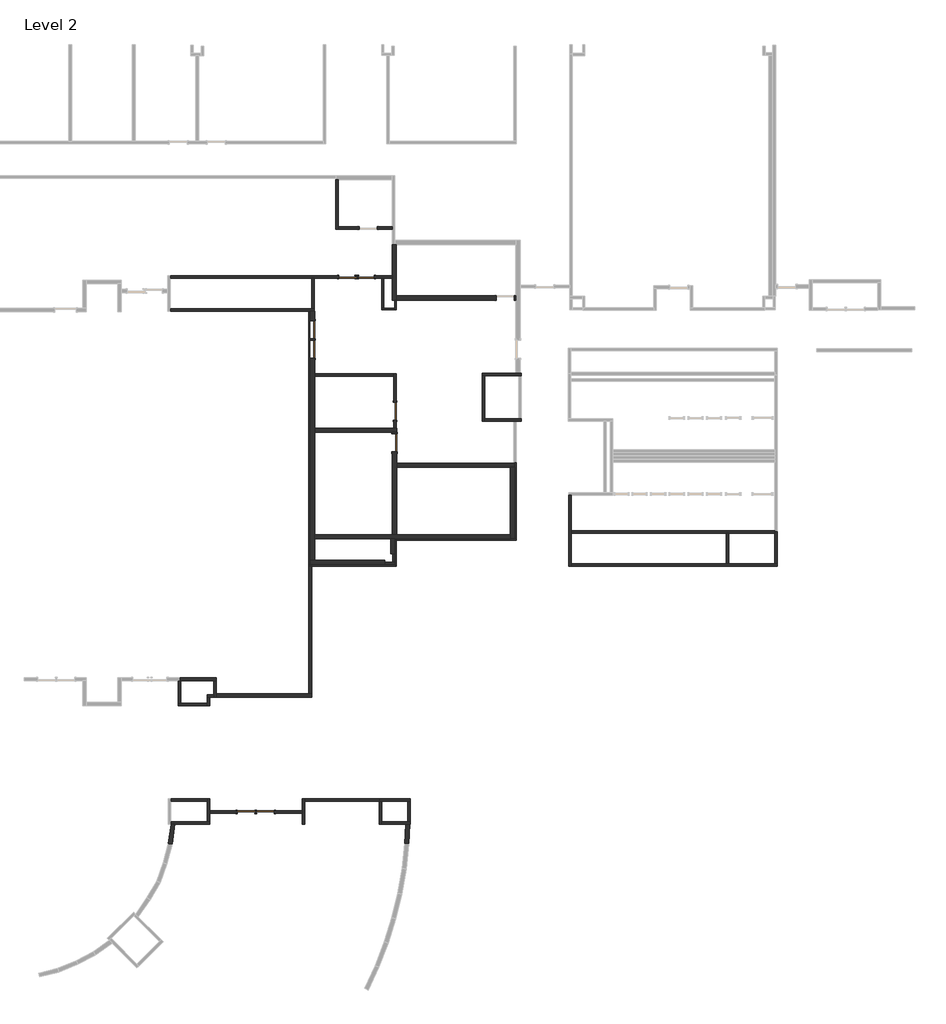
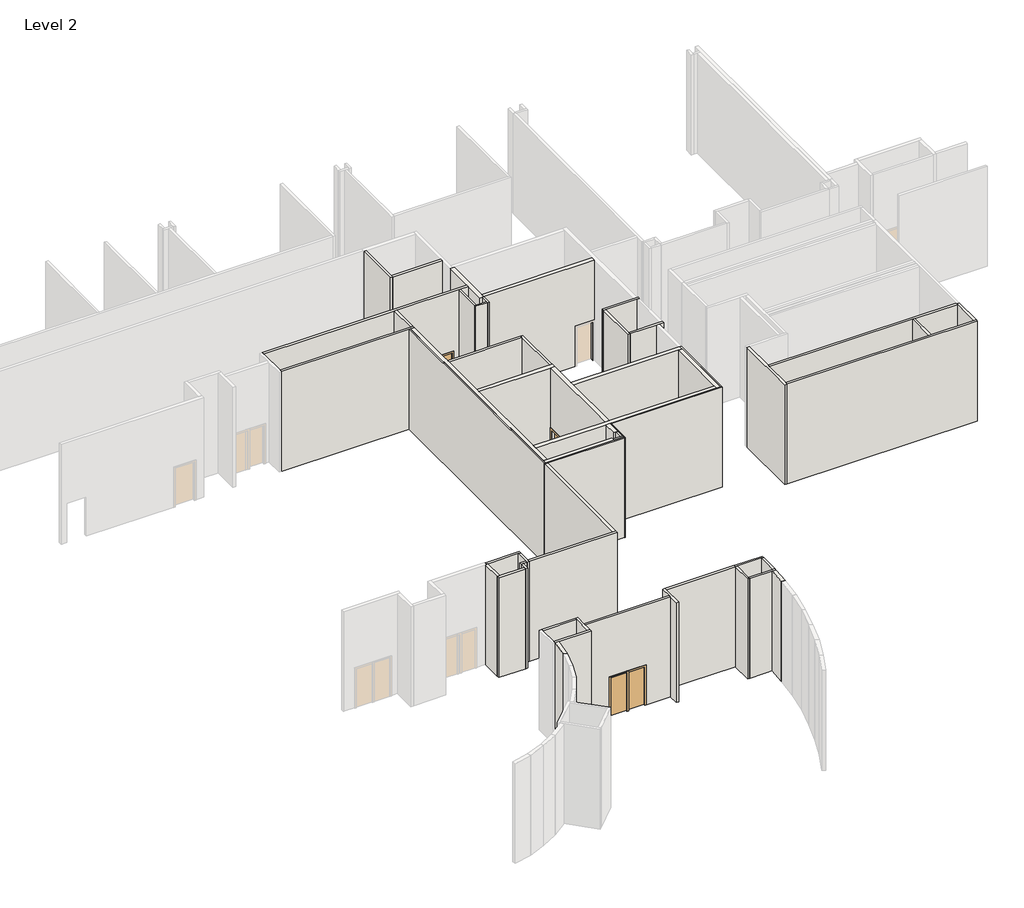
# One storey, part 6 of 9: 55 walls, 8 doors.
"""IFC4 building model written with IfcOpenShell, lengths in millimetres."""

import ifcopenshell
import ifcopenshell.guid

model = None  # the IFC model being written
_history = None  # IfcOwnerHistory: only IFC2X3 demands one
_inside = {}  # id of a spatial element -> (the spatial element, [elements in it])
_under = {}  # id of a project, library or spatial element -> (it, [spatial elements below it])
_declared = {}  # id of a project -> (the project, [libraries it declares])
_typed = {}  # id of a type object -> (the type object, [elements of that type])
_made_of = {}  # id of a material, layer set ... -> (it, [elements and type objects made of it])


def new_model(schema):
    """Start an empty IFC model of exactly this schema.

    Asked for "IFC4X3", IfcOpenShell would pick the latest addendum, in which some entities
    have other attributes; the version numbers below select the first issue.
    IFC2X3 requires an IfcOwnerHistory on every rooted entity: one is made here for all.
    """
    global model, _history
    if schema == "IFC4X3":
        model = ifcopenshell.file(schema_version=(4, 3, 0, 0))
    else:
        model = ifcopenshell.file(schema=schema)
    _inside.clear()
    _under.clear()
    _declared.clear()
    _typed.clear()
    _made_of.clear()
    _history = None
    if model.schema == "IFC2X3":
        org = make("IfcOrganization", Name="unknown")
        user = make(
            "IfcPersonAndOrganization",
            ThePerson=make("IfcPerson", FamilyName="unknown"),
            TheOrganization=org,
        )
        app = make(
            "IfcApplication",
            ApplicationDeveloper=org,
            Version="unknown",
            ApplicationFullName="unknown",
            ApplicationIdentifier="unknown",
        )
        _history = make(
            "IfcOwnerHistory",
            OwningUser=user,
            OwningApplication=app,
            ChangeAction="ADDED",
            CreationDate=0,
        )
    return model


def make(cls, **values):
    """One entity of the class cls with the attributes given. An attribute that is None is left unset."""
    return model.create_entity(
        cls, **{name: value for name, value in values.items() if value is not None}
    )


def rooted(cls, **values):
    """An entity with a GlobalId (a new one), such as an element, a storey or a relation."""
    return make(cls, GlobalId=ifcopenshell.guid.new(), OwnerHistory=_history, **values)


def si_unit(unit_type, name, prefix=None):
    """IfcSIUnit, for example si_unit("LENGTHUNIT", "METRE", prefix="MILLI")."""
    return make("IfcSIUnit", UnitType=unit_type, Prefix=prefix, Name=name)


def assignment(units):
    """IfcUnitAssignment: the units of a project."""
    return None if units is None else make("IfcUnitAssignment", Units=units)


def point(xyz):
    """IfcCartesianPoint."""
    return None if xyz is None else make("IfcCartesianPoint", Coordinates=xyz)


def direction(xyz):
    """IfcDirection."""
    return None if xyz is None else make("IfcDirection", DirectionRatios=xyz)


def frame(location, z_axis=None, x_axis=None):
    """IfcAxis2Placement3D, a coordinate frame: its origin and axes. An axis left out is left unset."""
    return make(
        "IfcAxis2Placement3D",
        Location=point(location),
        Axis=direction(z_axis),
        RefDirection=direction(x_axis),
    )


def origin():
    """The frame at (0, 0, 0) with its axes left unset."""
    return frame((0.0, 0.0, 0.0))


def origin_with_axes():
    """The frame at (0, 0, 0) with the z axis (0, 0, 1) and the x axis (1, 0, 0) written out."""
    return frame((0.0, 0.0, 0.0), z_axis=(0.0, 0.0, 1.0), x_axis=(1.0, 0.0, 0.0))


def place(relative_to, where):
    """IfcLocalPlacement: puts the frame where relative to a parent placement (None: the world)."""
    return make(
        "IfcLocalPlacement", PlacementRelTo=relative_to, RelativePlacement=where
    )


def context(
    kind, dimensions, precision=None, world=None, true_north=None, identifier=None
):
    """IfcGeometricRepresentationContext, for example the 3D "Model" context."""
    return make(
        "IfcGeometricRepresentationContext",
        ContextIdentifier=identifier,
        ContextType=kind,
        CoordinateSpaceDimension=dimensions,
        Precision=precision,
        WorldCoordinateSystem=world,
        TrueNorth=true_north,
    )


def project(units=None, contexts=None):
    """IfcProject with its units and contexts."""
    return rooted(
        "IfcProject",
        Name="project",
        RepresentationContexts=contexts,
        UnitsInContext=assignment(units),
    )


def spatial(cls, under=None, at=None, **own):
    """A site, building, storey or space (cls), placed at a placement, below another one or the project."""
    s = rooted(cls, ObjectPlacement=at, **own)
    if under is not None:
        _under.setdefault(under.id(), (under, []))[1].append(s)
    return s


def polyline(points):
    """IfcPolyline through the points."""
    return make("IfcPolyline", Points=[point(p) for p in points])


def outline(outer, holes=None, kind="AREA"):
    """IfcArbitraryClosedProfileDef: a profile drawn as a closed curve; with holes, ...WithVoids."""
    if holes is None:
        return make("IfcArbitraryClosedProfileDef", ProfileType=kind, OuterCurve=outer)
    return make(
        "IfcArbitraryProfileDefWithVoids",
        ProfileType=kind,
        OuterCurve=outer,
        InnerCurves=holes,
    )


def extrude(swept, where, along, depth):
    """IfcExtrudedAreaSolid: the profile swept, set in the frame where, extruded along a direction by depth."""
    return make(
        "IfcExtrudedAreaSolid",
        SweptArea=swept,
        Position=where,
        ExtrudedDirection=direction(along),
        Depth=depth,
    )


def faces_of(points, faces, orient=None, outer=None):
    """IfcFace entities. A face is a list of loops; a loop is a list of indices into points, from 0.

    orient and outer hold one flag for each loop. By default every Orientation is true, the
    first loop of a face is its IfcFaceOuterBound and the others are IfcFaceBound.
    """
    made = []
    for i, loops in enumerate(faces):
        bounds = []
        for j, loop in enumerate(loops):
            is_outer = j == 0 if outer is None else outer[i][j]
            bounds.append(
                make(
                    "IfcFaceOuterBound" if is_outer else "IfcFaceBound",
                    Bound=make("IfcPolyLoop", Polygon=[points[k] for k in loop]),
                    Orientation=True if orient is None else orient[i][j],
                )
            )
        made.append(make("IfcFace", Bounds=bounds))
    return made


def faceted_brep(points, faces, orient=None, outer=None, voids=None):
    """IfcFacetedBrep: a solid bounded by flat faces; with voids (closed shells), ...WithVoids."""
    shared = [point(p) for p in points]
    hull = make("IfcClosedShell", CfsFaces=faces_of(shared, faces, orient, outer))
    if voids is None:
        return make("IfcFacetedBrep", Outer=hull)
    return make(
        "IfcFacetedBrepWithVoids",
        Outer=hull,
        Voids=[
            make(cls, CfsFaces=faces_of(shared, fs, o, b)) for cls, fs, o, b in voids
        ],
    )


def shape(context_of_items, identifier, shape_type, items):
    """IfcShapeRepresentation: the items that make up one representation, for example the "Body"."""
    return make(
        "IfcShapeRepresentation",
        ContextOfItems=context_of_items,
        RepresentationIdentifier=identifier,
        RepresentationType=shape_type,
        Items=items,
    )


def source(mapping_origin, context_of_items, identifier, shape_type, items):
    """IfcRepresentationMap: a shape defined once, which mapped items show again and again."""
    return make(
        "IfcRepresentationMap",
        MappingOrigin=mapping_origin,
        MappedRepresentation=shape(context_of_items, identifier, shape_type, items),
    )


def transform(
    local_origin,
    x_axis=None,
    y_axis=None,
    z_axis=None,
    scale=None,
    scale2=None,
    scale3=None,
    uniform=True,
):
    """IfcCartesianTransformationOperator3D, or its non-uniform kind. x_axis, y_axis, z_axis: its Axis1, 2, 3."""
    if uniform:
        return make(
            "IfcCartesianTransformationOperator3D",
            Axis1=direction(x_axis),
            Axis2=direction(y_axis),
            LocalOrigin=point(local_origin),
            Scale=scale,
            Axis3=direction(z_axis),
        )
    return make(
        "IfcCartesianTransformationOperator3DnonUniform",
        Axis1=direction(x_axis),
        Axis2=direction(y_axis),
        LocalOrigin=point(local_origin),
        Scale=scale,
        Axis3=direction(z_axis),
        Scale2=scale2,
        Scale3=scale3,
    )


def mapped(mapping_source, mapping_target):
    """IfcMappedItem: shows the shape of a source again, moved by a transform."""
    return make(
        "IfcMappedItem", MappingSource=mapping_source, MappingTarget=mapping_target
    )


def made_of(thing, what):
    """Note that an element or type object is made of a material, layer set ...; save() writes the relation."""
    if what is not None:
        _made_of.setdefault(what.id(), (what, []))[1].append(thing)
    return thing


def element(
    cls,
    number,
    at=None,
    inside=None,
    cuts=None,
    type_object=None,
    material=None,
    context=None,
    identifier="Body",
    shape_type=None,
    held_by="IfcProductDefinitionShape",
    body=None,
    shapes=None,
    **own,
):
    """One element of the class cls, such as IfcWall. Its Tag is "e" and its number.

    at: its placement. inside: the storey or other place that contains it. cuts: it is an
    opening in that element (IfcRelVoidsElement). A single representation is given by context,
    identifier, shape_type and body (its items); several are given by shapes. held_by: the class
    of the entity that holds the representations. save() writes the other relations.
    """
    e = rooted(cls, Tag="e%d" % number, ObjectPlacement=at, **own)
    if body is not None:
        shapes = [shape(context, identifier, shape_type, body)]
    if shapes is not None:
        e.Representation = make(held_by, Representations=shapes)
    if inside is not None:
        _inside.setdefault(inside.id(), (inside, []))[1].append(e)
    if cuts is not None:
        rooted(
            "IfcRelVoidsElement", RelatingBuildingElement=cuts, RelatedOpeningElement=e
        )
    if type_object is not None:
        _typed.setdefault(type_object.id(), (type_object, []))[1].append(e)
    return made_of(e, material)


def aggregate(whole, parts):
    """IfcRelAggregates: a whole, such as a stair, and the parts it consists of."""
    return rooted("IfcRelAggregates", RelatingObject=whole, RelatedObjects=parts)


def save(model, path):
    """Write the relations noted so far, then the file.

    IfcRelAggregates (storeys below a building ...), IfcRelContainedInSpatialStructure (elements
    in a storey), IfcRelDefinesByType, IfcRelAssociatesMaterial and IfcRelDeclares: one each for
    every whole, place, type object, material and project.
    """
    for whole, parts in _under.values():
        aggregate(whole, parts)
    for where, things in _inside.values():
        rooted(
            "IfcRelContainedInSpatialStructure",
            RelatedElements=things,
            RelatingStructure=where,
        )
    for kind, things in _typed.values():
        rooted("IfcRelDefinesByType", RelatedObjects=things, RelatingType=kind)
    for what, things in _made_of.values():
        rooted("IfcRelAssociatesMaterial", RelatedObjects=things, RelatingMaterial=what)
    for by, libraries in _declared.values():
        rooted("IfcRelDeclares", RelatingContext=by, RelatedDefinitions=libraries)
    model.write(path)


def door_7c9e1b45(model_context):
    return source(origin(), model_context, "Body", "SweptSolid", [
        extrude(outline(polyline([(2209.8, -508.0), (0.0, -508.0), (0.0, -431.8), (2133.6, -431.8), (2133.6, 431.8), (0.0, 431.8), (0.0, 508.0), (2209.8, 508.0), (2209.8, -508.0)])), frame((0.0, 61.9125, 0.0), z_axis=(0.0, 1.0, 0.0), x_axis=(0.0, 0.0, 1.0)), (0.0, 0.0, 1.0), 25.4),
        extrude(outline(polyline([(2209.8, 508.0), (2209.8, -508.0), (0.0, -508.0), (0.0, -431.8), (2133.6, -431.8), (2133.6, 431.8), (0.0, 431.8), (0.0, 508.0), (2209.8, 508.0)])), frame((0.0, -87.3125, 0.0), z_axis=(0.0, 1.0, 0.0), x_axis=(0.0, 0.0, 1.0)), (0.0, 0.0, 1.0), 25.4),
        extrude(outline(polyline([(431.8, 11.1125), (-431.8, 11.1125), (-431.8, 61.9125), (431.8, 61.9125), (431.8, 11.1125)])), origin_with_axes(), (0.0, 0.0, 1.0), 2133.6),
    ])


def door_f75d31f8(model_context):
    return source(origin(), model_context, "Body", "SweptSolid", [
        extrude(outline(polyline([(2209.8, -508.0), (0.0, -508.0), (0.0, -431.8), (2133.6, -431.8), (2133.6, 431.8), (0.0, 431.8), (0.0, 508.0), (2209.8, 508.0), (2209.8, -508.0)])), frame((0.0, 101.6, 0.0), z_axis=(0.0, 1.0, 0.0), x_axis=(0.0, 0.0, 1.0)), (0.0, 0.0, 1.0), 25.4),
        extrude(outline(polyline([(2209.8, 508.0), (2209.8, -508.0), (0.0, -508.0), (0.0, -431.8), (2133.6, -431.8), (2133.6, 431.8), (0.0, 431.8), (0.0, 508.0), (2209.8, 508.0)])), frame((0.0, -127.0, 0.0), z_axis=(0.0, 1.0, 0.0), x_axis=(0.0, 0.0, 1.0)), (0.0, 0.0, 1.0), 25.4),
        extrude(outline(polyline([(431.8, 50.8), (-431.8, 50.8), (-431.8, 101.6), (431.8, 101.6), (431.8, 50.8)])), origin_with_axes(), (0.0, 0.0, 1.0), 2133.6),
    ])


def door_74220ae7(model_context):
    return source(origin(), model_context, "Body", "SweptSolid", [
        extrude(outline(polyline([(2209.8, -508.0), (0.0, -508.0), (0.0, -431.8), (2133.6, -431.8), (2133.6, 431.8), (0.0, 431.8), (0.0, 508.0), (2209.8, 508.0), (2209.8, -508.0)])), frame((0.0, -127.0, 0.0), z_axis=(0.0, 1.0, 0.0), x_axis=(0.0, 0.0, 1.0)), (0.0, 0.0, 1.0), 25.4),
        extrude(outline(polyline([(2209.8, 508.0), (2209.8, -508.0), (0.0, -508.0), (0.0, -431.8), (2133.6, -431.8), (2133.6, 431.8), (0.0, 431.8), (0.0, 508.0), (2209.8, 508.0)])), frame((0.0, 101.6, 0.0), z_axis=(0.0, 1.0, 0.0), x_axis=(0.0, 0.0, 1.0)), (0.0, 0.0, 1.0), 25.4),
        extrude(outline(polyline([(431.8, -50.8), (431.8, -101.6), (-431.8, -101.6), (-431.8, -50.8), (431.8, -50.8)])), origin_with_axes(), (0.0, 0.0, 1.0), 2133.6),
    ])


def door_3b0d1d25(model_context):
    return source(origin(), model_context, "Body", "SweptSolid", [
        extrude(outline(polyline([(2209.8, -508.0), (0.0, -508.0), (0.0, -431.8), (2133.6, -431.8), (2133.6, 431.8), (0.0, 431.8), (0.0, 508.0), (2209.8, 508.0), (2209.8, -508.0)])), frame((0.0, -87.3125, 0.0), z_axis=(0.0, 1.0, 0.0), x_axis=(0.0, 0.0, 1.0)), (0.0, 0.0, 1.0), 25.4),
        extrude(outline(polyline([(2209.8, 508.0), (2209.8, -508.0), (0.0, -508.0), (0.0, -431.8), (2133.6, -431.8), (2133.6, 431.8), (0.0, 431.8), (0.0, 508.0), (2209.8, 508.0)])), frame((0.0, 61.9125, 0.0), z_axis=(0.0, 1.0, 0.0), x_axis=(0.0, 0.0, 1.0)), (0.0, 0.0, 1.0), 25.4),
        extrude(outline(polyline([(431.8, -11.1125), (431.8, -61.9125), (-431.8, -61.9125), (-431.8, -11.1125), (431.8, -11.1125)])), origin_with_axes(), (0.0, 0.0, 1.0), 2133.6),
    ])


model = new_model("IFC4")

# Units and contexts
model_context = context("Model", 3, world=origin())
ifc_project = project(units=[si_unit("LENGTHUNIT", "METRE", prefix="MILLI")], contexts=[model_context])

# Site, building, storey
site = spatial("IfcSite", under=ifc_project)
building = spatial("IfcBuilding", under=site)
storey = spatial("IfcBuildingStorey", under=building, Name="Level 2", Elevation=5486.4)

# Doors
placement = place(None, origin())
door_shape = door_7c9e1b45(model_context)
element("IfcDoor", 1, ObjectType="Single-Flush : 34\" x 84\"", at=placement, inside=storey, context=model_context, shape_type="MappedRepresentation", body=[
    mapped(door_shape, transform((40518.4464732, 26742.1981107, 5486.4), x_axis=(-1.0, 0.0, 0.0), y_axis=(0.0, -1.0, 0.0), z_axis=(0.0, 0.0, 1.0))),
])
element("IfcDoor", 2, ObjectType="Single-Flush : 34\" x 84\"", at=placement, inside=storey, context=model_context, shape_type="MappedRepresentation", body=[
    mapped(door_shape, transform((42778.678653, 20300.0587166, 5486.4), x_axis=(0.0, -1.0, 0.0), y_axis=(1.0, 0.0, 0.0), z_axis=(0.0, 0.0, 1.0))),
])
element("IfcDoor", 3, ObjectType="Single-Flush : 34\" x 84\"", at=placement, inside=storey, context=model_context, shape_type="MappedRepresentation", body=[
    mapped(door_shape, transform((36552.5129372, 1068.1957269, 5486.4), x_axis=(1.0, 0.0, 0.0), y_axis=(0.0, 1.0, 0.0), z_axis=(0.0, 0.0, 1.0))),
])
door_2_shape = door_f75d31f8(model_context)
element("IfcDoor", 4, ObjectType="Single-Flush : 34\" x 84\"", at=placement, inside=storey, context=model_context, shape_type="MappedRepresentation", body=[
    mapped(door_2_shape, transform((38816.2879373, 23265.5087166, 5486.4), x_axis=(0.0, -1.0, 0.0), y_axis=(1.0, 0.0, 0.0), z_axis=(0.0, 0.0, 1.0))),
])
door_3_shape = door_74220ae7(model_context)
element("IfcDoor", 5, ObjectType="Single-Flush : 34\" x 84\"", at=placement, inside=storey, context=model_context, shape_type="MappedRepresentation", body=[
    mapped(door_3_shape, transform((42753.2879373, 18776.0587166, 5486.4), x_axis=(0.0, 1.0, 0.0), y_axis=(-1.0, 0.0, 0.0), z_axis=(0.0, 0.0, 1.0))),
])
element("IfcDoor", 6, ObjectType="Single-Flush : 34\" x 84\"", at=placement, inside=storey, context=model_context, shape_type="MappedRepresentation", body=[
    mapped(door_3_shape, transform((38816.2879373, 24206.4839136, 5486.4), x_axis=(0.0, 1.0, 0.0), y_axis=(-1.0, 0.0, 0.0), z_axis=(0.0, 0.0, 1.0))),
])
door_4_shape = door_3b0d1d25(model_context)
element("IfcDoor", 7, ObjectType="Single-Flush : 34\" x 84\"", at=placement, inside=storey, context=model_context, shape_type="MappedRepresentation", body=[
    mapped(door_4_shape, transform((41352.8569911, 26742.1981107, 5486.4), x_axis=(1.0, 0.0, 0.0), y_axis=(0.0, 1.0, 0.0), z_axis=(0.0, 0.0, 1.0))),
])
element("IfcDoor", 8, ObjectType="Single-Flush : 34\" x 84\"", at=placement, inside=storey, context=model_context, shape_type="MappedRepresentation", body=[
    mapped(door_4_shape, transform((35638.1129372, 1068.1957269, 5486.4), x_axis=(-1.0, 0.0, 0.0), y_axis=(0.0, -1.0, 0.0), z_axis=(0.0, 0.0, 1.0))),
])

# Walls
element("IfcWall", 9, ObjectType="N2A/B", at=placement, inside=storey, context=model_context, shape_type="Brep", body=[
    faceted_brep([(51101.95039, 16265.3331483, 5486.4), (51101.95039, 12862.6212166, 5486.4), (51101.95039, 12862.6212166, 10972.8), (51101.95039, 16265.3331483, 10972.8), (51225.77539, 16265.3331483, 5486.4), (51225.77539, 16265.3331483, 10972.8), (51225.77539, 14568.2956098, 10972.8), (51225.77539, 14444.4706098, 10972.8), (51225.77539, 12986.4462166, 10972.8), (51225.77539, 12862.6212166, 10972.8), (51225.77539, 12862.6212166, 5486.4), (51225.77539, 12986.4462166, 5486.4), (51225.77539, 14444.4706098, 5486.4), (51225.77539, 14568.2956098, 5486.4)], [[[0, 1, 2, 3]], [[4, 5, 6, 7, 8, 9, 10, 11, 12, 13]], [[1, 0, 4, 13, 12, 11, 10]], [[3, 2, 9, 8, 7, 6, 5]], [[2, 1, 10, 9]], [[0, 3, 5, 4]]]),
])
element("IfcWall", 10, ObjectType="N3A/B", at=placement, inside=storey, context=model_context, shape_type="Brep", body=[
    faceted_brep([(34210.9597232, 6581.5831102, 5486.4), (38784.5472232, 6581.5831102, 5486.4), (38784.5472232, 6581.5831102, 10972.8), (34210.9597232, 6581.5831102, 10972.8), (34210.9597232, 6737.1581102, 5486.4), (34210.9597232, 6737.1581102, 10972.8), (38628.9722232, 6737.1581102, 10972.8), (38784.5472232, 6737.1581102, 10972.8), (38784.5472232, 6737.1581102, 5486.4), (38628.9722232, 6737.1581102, 5486.4)], [[[0, 1, 2, 3]], [[4, 5, 6, 7, 8, 9]], [[1, 0, 4, 9, 8]], [[3, 2, 7, 6, 5]], [[2, 1, 8, 7]], [[0, 3, 5, 4]]]),
])
element("IfcWall", 11, ObjectType="N3A/B", at=placement, inside=storey, context=model_context, shape_type="Brep", body=[
    faceted_brep([(38784.5472232, 6737.1581102, 5486.4), (38784.5472232, 12867.3837166, 5486.4), (38784.5472232, 12867.3837166, 10972.8), (38784.5472232, 6737.1581102, 10972.8), (38628.9722232, 6737.1581102, 5486.4), (38628.9722232, 6737.1581102, 10972.8), (38628.9722232, 12867.3837166, 10972.8), (38628.9722232, 12867.3837166, 5486.4), (38636.9190091, 12867.3837166, 5486.4), (38636.9190091, 12867.3837166, 10972.8)], [[[0, 1, 2, 3]], [[4, 5, 6, 7]], [[1, 0, 4, 7, 8]], [[3, 2, 9, 6, 5]], [[0, 3, 5, 4]], [[2, 1, 8, 7, 6, 9]]]),
])
element("IfcWall", 12, ObjectType="N2A/B", at=placement, inside=storey, context=model_context, shape_type="Brep", body=[
    faceted_brep([(32022.7144101, 489.4429992, 5486.4), (33898.2129372, 489.4429992, 5486.4), (33898.2129372, 489.4429992, 10972.8), (32022.7144101, 489.4429992, 10972.8), (32022.7144101, 613.2679992, 5486.4), (32022.7144101, 613.2679992, 10972.8), (33774.3879372, 613.2679992, 10972.8), (33898.2129372, 613.2679992, 10972.8), (33898.2129372, 613.2679992, 5486.4), (33774.3879372, 613.2679992, 5486.4)], [[[0, 1, 2, 3]], [[4, 5, 6, 7, 8, 9]], [[1, 0, 4, 9, 8]], [[3, 2, 7, 6, 5]], [[2, 1, 8, 7]], [[0, 3, 5, 4]]]),
])
element("IfcWall", 13, ObjectType="N2A/B", at=placement, inside=storey, context=model_context, shape_type="Brep", body=[
    faceted_brep([(33898.2129372, 613.2679992, 5486.4), (33898.2129372, 1006.2832269, 5486.4), (33898.2129372, 1130.1082269, 5486.4), (33898.2129372, 1703.1957269, 5486.4), (33898.2129372, 1703.1957269, 10972.8), (33898.2129372, 1130.1082269, 10972.8), (33898.2129372, 1006.2832269, 10972.8), (33898.2129372, 613.2679992, 10972.8), (33774.3879372, 613.2679992, 5486.4), (33774.3879372, 613.2679992, 10972.8), (33774.3879372, 1579.3707269, 10972.8), (33774.3879372, 1703.1957269, 10972.8), (33774.3879372, 1703.1957269, 5486.4), (33774.3879372, 1579.3707269, 5486.4)], [[[0, 1, 2, 3, 4, 5, 6, 7]], [[8, 9, 10, 11, 12, 13]], [[3, 2, 1, 0, 8, 13, 12]], [[7, 6, 5, 4, 11, 10, 9]], [[4, 3, 12, 11]], [[0, 7, 9, 8]]]),
])
element("IfcWall", 14, ObjectType="N2A/B", at=placement, inside=storey, context=model_context, shape_type="SweptSolid", body=[
    extrude(outline(polyline([(32022.7144101, 1703.1957269), (33774.3879372, 1703.1957269), (33774.3879372, 1579.3707269), (32022.7144101, 1579.3707269), (32022.7144101, 1703.1957269)])), frame((0.0, 0.0, 5486.4), z_axis=(0.0, 0.0, 1.0), x_axis=(1.0, 0.0, 0.0)), (0.0, 0.0, 1.0), 5486.4),
])
element("IfcWall", 15, ObjectType="F1A", at=placement, inside=storey, context=model_context, shape_type="Brep", body=[
    faceted_brep([(42840.6190091, 14112.1344972, 5486.4), (48584.1940091, 14112.1344972, 5486.4), (48584.1940091, 14112.1344972, 10972.8), (42840.6190091, 14112.1344972, 10972.8), (42840.6190091, 14169.2844972, 5486.4), (42840.6190091, 14169.2844972, 10972.8), (48527.0440091, 14169.2844972, 10972.8), (48584.1940091, 14169.2844972, 10972.8), (48584.1940091, 14169.2844972, 5486.4), (48527.0440091, 14169.2844972, 5486.4)], [[[0, 1, 2, 3]], [[4, 5, 6, 7, 8, 9]], [[1, 0, 4, 9, 8]], [[3, 2, 7, 6, 5]], [[0, 3, 5, 4]], [[2, 1, 8, 7]]]),
])
element("IfcWall", 16, ObjectType="F1A", at=placement, inside=storey, context=model_context, shape_type="SweptSolid", body=[
    extrude(outline(polyline([(48584.1940091, 17823.7094972), (48584.1940091, 14169.2844972), (48527.0440091, 14169.2844972), (48527.0440091, 17823.7094972), (48584.1940091, 17823.7094972)])), frame((0.0, 0.0, 5486.4), z_axis=(0.0, 0.0, 1.0), x_axis=(1.0, 0.0, 0.0)), (0.0, 0.0, 1.0), 5486.4),
])
element("IfcWall", 17, ObjectType="F1A", at=placement, inside=storey, context=model_context, shape_type="Brep", body=[
    faceted_brep([(42777.1190091, 14140.7094972, 5486.4), (42777.1190091, 12924.5337166, 5486.4), (42777.1190091, 12867.3837166, 5486.4), (42777.1190091, 12867.3837166, 10972.8), (42777.1190091, 12924.5337166, 10972.8), (42777.1190091, 14140.7094972, 10972.8), (42834.2690091, 14140.7094972, 5486.4), (42834.2690091, 14140.7094972, 10972.8), (42834.2690091, 12867.3837166, 10972.8), (42834.2690091, 12867.3837166, 5486.4)], [[[0, 1, 2, 3, 4, 5]], [[6, 7, 8, 9]], [[2, 1, 0, 6, 9]], [[5, 4, 3, 8, 7]], [[0, 5, 7, 6]], [[3, 2, 9, 8]]]),
])
element("IfcWall", 18, ObjectType="F1A", at=placement, inside=storey, context=model_context, shape_type="Brep", body=[
    faceted_brep([(42777.1190091, 12924.5337166, 5486.4), (38694.0690091, 12924.5337166, 5486.4), (38636.9190091, 12924.5337166, 5486.4), (38636.9190091, 12924.5337166, 10972.8), (38694.0690091, 12924.5337166, 10972.8), (42777.1190091, 12924.5337166, 10972.8), (42777.1190091, 12867.3837166, 5486.4), (42777.1190091, 12867.3837166, 10972.8), (38784.5472232, 12867.3837166, 10972.8), (38636.9190091, 12867.3837166, 10972.8), (38636.9190091, 12867.3837166, 5486.4), (38784.5472232, 12867.3837166, 5486.4)], [[[0, 1, 2, 3, 4, 5]], [[6, 7, 8, 9, 10, 11]], [[2, 1, 0, 6, 11, 10]], [[5, 4, 3, 9, 8, 7]], [[3, 2, 10, 9]], [[0, 5, 7, 6]]]),
])
element("IfcWall", 19, ObjectType="F1A", at=placement, inside=storey, context=model_context, shape_type="SweptSolid", body=[
    extrude(outline(polyline([(38694.0690091, 25075.2587166), (38694.0690091, 12924.5337166), (38636.9190091, 12924.5337166), (38636.9190091, 25075.2587166), (38694.0690091, 25075.2587166)])), frame((0.0, 0.0, 5486.4), z_axis=(0.0, 0.0, 1.0), x_axis=(1.0, 0.0, 0.0)), (0.0, 0.0, 1.0), 5486.4),
])
element("IfcWall", 20, ObjectType="F1B", at=placement, inside=storey, context=model_context, shape_type="Brep", body=[
    faceted_brep([(42761.2254373, 25629.9956102, 5486.4), (42761.2254373, 25237.8831102, 5486.4), (42761.2254373, 25158.5081102, 5486.4), (42761.2254373, 25158.5081102, 10972.8), (42761.2254373, 25237.8831102, 10972.8), (42761.2254373, 25629.9956102, 10972.8), (42840.6004373, 25629.9956102, 5486.4), (42840.6004373, 25629.9956102, 10972.8), (42840.6004373, 25158.5081102, 10972.8), (42840.6004373, 25158.5081102, 5486.4)], [[[0, 1, 2, 3, 4, 5]], [[6, 7, 8, 9]], [[2, 1, 0, 6, 9]], [[5, 4, 3, 8, 7]], [[3, 2, 9, 8]], [[0, 5, 7, 6]]]),
])
element("IfcWall", 21, ObjectType="F1B", at=placement, inside=storey, context=model_context, shape_type="Brep", body=[
    faceted_brep([(42761.2254373, 25237.8831102, 5486.4), (42226.9550091, 25237.8831102, 5486.4), (42147.5800091, 25237.8831102, 5486.4), (42147.5800091, 25237.8831102, 10972.8), (42226.9550091, 25237.8831102, 10972.8), (42761.2254373, 25237.8831102, 10972.8), (42761.2254373, 25158.5081102, 5486.4), (42761.2254373, 25158.5081102, 10972.8), (42147.5800091, 25158.5081102, 10972.8), (42147.5800091, 25158.5081102, 5486.4)], [[[0, 1, 2, 3, 4, 5]], [[6, 7, 8, 9]], [[2, 1, 0, 6, 9]], [[5, 4, 3, 8, 7]], [[3, 2, 9, 8]], [[0, 5, 7, 6]]]),
])
element("IfcWall", 22, ObjectType="F1B", at=placement, inside=storey, context=model_context, shape_type="SweptSolid", body=[
    extrude(outline(polyline([(42226.9550091, 26680.2856107), (42226.9550091, 25237.8831102), (42147.5800091, 25237.8831102), (42147.5800091, 26680.2856107), (42226.9550091, 26680.2856107)])), frame((0.0, 0.0, 5486.4), z_axis=(0.0, 0.0, 1.0), x_axis=(1.0, 0.0, 0.0)), (0.0, 0.0, 1.0), 5486.4),
])
element("IfcWall", 23, ObjectType="F1C", at=placement, inside=storey, context=model_context, shape_type="Brep", body=[
    faceted_brep([(43501.0004373, 1704.7832269, 5486.4), (42030.9754373, 1704.7832269, 5486.4), (42030.9754373, 1704.7832269, 10972.8), (43501.0004373, 1704.7832269, 10972.8), (43501.0004373, 1596.8332269, 5486.4), (43501.0004373, 1596.8332269, 10972.8), (43393.0504373, 1596.8332269, 10972.8), (42138.9254373, 1596.8332269, 10972.8), (42030.9754373, 1596.8332269, 10972.8), (42030.9754373, 1596.8332269, 5486.4), (42138.9254373, 1596.8332269, 5486.4), (43393.0504373, 1596.8332269, 5486.4)], [[[0, 1, 2, 3]], [[4, 5, 6, 7, 8, 9, 10, 11]], [[1, 0, 4, 11, 10, 9]], [[3, 2, 8, 7, 6, 5]], [[2, 1, 9, 8]], [[0, 3, 5, 4]]]),
])
element("IfcWall", 24, ObjectType="F1C", at=placement, inside=storey, context=model_context, shape_type="Brep", body=[
    faceted_brep([(42030.9754373, 1596.8332269, 5486.4), (42030.9754373, 1588.8957269, 5486.4), (42030.9754373, 485.5832269, 5486.4), (42030.9754373, 485.5832269, 10972.8), (42030.9754373, 1588.8957269, 10972.8), (42030.9754373, 1596.8332269, 10972.8), (42138.9254373, 1596.8332269, 5486.4), (42138.9254373, 1596.8332269, 10972.8), (42138.9254373, 593.5332269, 10972.8), (42138.9254373, 485.5832269, 10972.8), (42138.9254373, 485.5832269, 5486.4), (42138.9254373, 593.5332269, 5486.4)], [[[0, 1, 2, 3, 4, 5]], [[6, 7, 8, 9, 10, 11]], [[2, 1, 0, 6, 11, 10]], [[5, 4, 3, 9, 8, 7]], [[3, 2, 10, 9]], [[0, 5, 7, 6]]]),
])
element("IfcWall", 25, ObjectType="F1C", at=placement, inside=storey, context=model_context, shape_type="Brep", body=[
    faceted_brep([(42138.9254373, 485.5832269, 5486.4), (43501.0004373, 485.5832269, 5486.4), (43501.0004373, 485.5832269, 10972.8), (42138.9254373, 485.5832269, 10972.8), (42138.9254373, 593.5332269, 5486.4), (42138.9254373, 593.5332269, 10972.8), (43393.0504373, 593.5332269, 10972.8), (43501.0004373, 593.5332269, 10972.8), (43501.0004373, 593.5332269, 5486.4), (43393.0504373, 593.5332269, 5486.4)], [[[0, 1, 2, 3]], [[4, 5, 6, 7, 8, 9]], [[1, 0, 4, 9, 8]], [[3, 2, 7, 6, 5]], [[2, 1, 8, 7]], [[0, 3, 5, 4]]]),
])
element("IfcWall", 26, ObjectType="F1C", at=placement, inside=storey, context=model_context, shape_type="SweptSolid", body=[
    extrude(outline(polyline([(43501.0004373, 1596.8332269), (43501.0004373, 593.5332269), (43393.0504373, 593.5332269), (43393.0504373, 1596.8332269), (43501.0004373, 1596.8332269)])), frame((0.0, 0.0, 5486.4), z_axis=(0.0, 0.0, 1.0), x_axis=(1.0, 0.0, 0.0)), (0.0, 0.0, 1.0), 5486.4),
])
element("IfcWall", 27, ObjectType="F2A", at=placement, inside=storey, context=model_context, shape_type="Brep", body=[
    faceted_brep([(42277.7550091, 12933.2649666, 5486.4), (42768.3877591, 12933.2649666, 5486.4), (42768.3877591, 12933.2649666, 10972.8), (42277.7550091, 12933.2649666, 10972.8), (42277.7550091, 13041.2149666, 5486.4), (42277.7550091, 13041.2149666, 10972.8), (42660.4377591, 13041.2149666, 10972.8), (42768.3877591, 13041.2149666, 10972.8), (42768.3877591, 13041.2149666, 5486.4), (42660.4377591, 13041.2149666, 5486.4)], [[[0, 1, 2, 3]], [[4, 5, 6, 7, 8, 9]], [[1, 0, 4, 9, 8]], [[3, 2, 7, 6, 5]], [[0, 3, 5, 4]], [[2, 1, 8, 7]]]),
])
element("IfcWall", 28, ObjectType="F2A", at=placement, inside=storey, context=model_context, shape_type="SweptSolid", body=[
    extrude(outline(polyline([(42768.3877591, 13453.8071107), (42768.3877591, 13041.2149666), (42660.4377591, 13041.2149666), (42660.4377591, 13453.8071107), (42768.3877591, 13453.8071107)])), frame((0.0, 0.0, 5486.4), z_axis=(0.0, 0.0, 1.0), x_axis=(1.0, 0.0, 0.0)), (0.0, 0.0, 1.0), 5486.4),
])
element("IfcWall", 29, ObjectType="F4A", at=placement, inside=storey, context=model_context, shape_type="Brep", body=[
    faceted_brep([(32437.7129373, 7378.5081109, 5486.4), (32499.6254373, 7378.5081109, 5486.4), (34087.1347232, 7378.5081109, 5486.4), (34210.9597232, 7378.5081109, 5486.4), (34210.9597232, 7378.5081109, 10972.8), (34087.1347232, 7378.5081109, 10972.8), (32499.6254373, 7378.5081109, 10972.8), (32437.7129373, 7378.5081109, 10972.8), (32437.7129373, 7502.3331109, 5486.4), (32437.7129373, 7502.3331109, 10972.8), (34210.9597232, 7502.3331109, 10972.8), (34210.9597232, 7502.3331109, 5486.4)], [[[0, 1, 2, 3, 4, 5, 6, 7]], [[8, 9, 10, 11]], [[3, 2, 1, 0, 8, 11]], [[7, 6, 5, 4, 10, 9]], [[0, 7, 9, 8]], [[4, 3, 11, 10]]]),
])
element("IfcWall", 30, ObjectType="F4A", at=placement, inside=storey, context=model_context, shape_type="Brep", body=[
    faceted_brep([(34087.1347232, 7378.5081109, 5486.4), (34087.1347232, 6705.4081104, 5486.4), (34087.1347232, 6581.5831104, 5486.4), (34087.1347232, 6581.5831104, 10972.8), (34087.1347232, 6705.4081104, 10972.8), (34087.1347232, 7378.5081109, 10972.8), (34210.9597232, 7378.5081109, 5486.4), (34210.9597232, 7378.5081109, 10972.8), (34210.9597232, 6737.1581102, 10972.8), (34210.9597232, 6581.5831104, 10972.8), (34210.9597232, 6581.5831104, 5486.4), (34210.9597232, 6737.1581102, 5486.4)], [[[0, 1, 2, 3, 4, 5]], [[6, 7, 8, 9, 10, 11]], [[2, 1, 0, 6, 11, 10]], [[5, 4, 3, 9, 8, 7]], [[3, 2, 10, 9]], [[0, 5, 7, 6]]]),
])
element("IfcWall", 31, ObjectType="F4A", at=placement, inside=storey, context=model_context, shape_type="Brep", body=[
    faceted_brep([(34087.1347232, 6705.4081104, 5486.4), (33776.012581, 6705.4081104, 5486.4), (33776.012581, 6705.4081104, 10972.8), (34087.1347232, 6705.4081104, 10972.8), (34087.1347232, 6581.5831104, 5486.4), (34087.1347232, 6581.5831104, 10972.8), (33899.837581, 6581.5831104, 10972.8), (33776.012581, 6581.5831104, 10972.8), (33776.012581, 6581.5831104, 5486.4), (33899.837581, 6581.5831104, 5486.4)], [[[0, 1, 2, 3]], [[4, 5, 6, 7, 8, 9]], [[1, 0, 4, 9, 8]], [[3, 2, 7, 6, 5]], [[2, 1, 8, 7]], [[0, 3, 5, 4]]]),
])
element("IfcWall", 32, ObjectType="F4A", at=placement, inside=storey, context=model_context, shape_type="Brep", body=[
    faceted_brep([(33776.012581, 6581.5831104, 5486.4), (33776.012581, 6299.0081102, 5486.4), (33776.012581, 6175.1831102, 5486.4), (33776.012581, 6175.1831102, 10972.8), (33776.012581, 6299.0081102, 10972.8), (33776.012581, 6581.5831104, 10972.8), (33899.837581, 6581.5831104, 5486.4), (33899.837581, 6581.5831104, 10972.8), (33899.837581, 6175.1831102, 10972.8), (33899.837581, 6175.1831102, 5486.4)], [[[0, 1, 2, 3, 4, 5]], [[6, 7, 8, 9]], [[2, 1, 0, 6, 9]], [[5, 4, 3, 8, 7]], [[3, 2, 9, 8]], [[0, 5, 7, 6]]]),
])
element("IfcWall", 33, ObjectType="F4A", at=placement, inside=storey, context=model_context, shape_type="Brep", body=[
    faceted_brep([(33776.012581, 6299.0081102, 5486.4), (32499.6254373, 6299.0081102, 5486.4), (32375.8004373, 6299.0081102, 5486.4), (32375.8004373, 6299.0081102, 10972.8), (32499.6254373, 6299.0081102, 10972.8), (33776.012581, 6299.0081102, 10972.8), (33776.012581, 6175.1831102, 5486.4), (33776.012581, 6175.1831102, 10972.8), (32375.8004373, 6175.1831102, 10972.8), (32375.8004373, 6175.1831102, 5486.4)], [[[0, 1, 2, 3, 4, 5]], [[6, 7, 8, 9]], [[2, 1, 0, 6, 9]], [[5, 4, 3, 8, 7]], [[3, 2, 9, 8]], [[0, 5, 7, 6]]]),
])
element("IfcWall", 34, ObjectType="F4A", at=placement, inside=storey, context=model_context, shape_type="SweptSolid", body=[
    extrude(outline(polyline([(32499.6254373, 7378.5081109), (32499.6254373, 6299.0081102), (32375.8004373, 6299.0081102), (32375.8004373, 7362.6331109), (32437.7129373, 7362.6331109), (32437.7129373, 7378.5081109), (32499.6254373, 7378.5081109)])), frame((0.0, 0.0, 5486.4), z_axis=(0.0, 0.0, 1.0), x_axis=(1.0, 0.0, 0.0)), (0.0, 0.0, 1.0), 5486.4),
])
element("IfcWall", 35, ObjectType="F4A", at=placement, inside=storey, context=model_context, shape_type="Brep", body=[
    faceted_brep([(51225.77539, 12862.6212166, 5486.4), (61127.0315091, 12862.6212166, 5486.4), (61127.0315091, 12862.6212166, 10972.8), (51225.77539, 12862.6212166, 10972.8), (51225.77539, 12986.4462166, 5486.4), (51225.77539, 12986.4462166, 10972.8), (58666.4065091, 12986.4462166, 10972.8), (58790.2315091, 12986.4462166, 10972.8), (61003.2065091, 12986.4462166, 10972.8), (61127.0315091, 12986.4462166, 10972.8), (61127.0315091, 12986.4462166, 5486.4), (61003.2065091, 12986.4462166, 5486.4), (58790.2315091, 12986.4462166, 5486.4), (58666.4065091, 12986.4462166, 5486.4)], [[[0, 1, 2, 3]], [[4, 5, 6, 7, 8, 9, 10, 11, 12, 13]], [[1, 0, 4, 13, 12, 11, 10]], [[3, 2, 9, 8, 7, 6, 5]], [[2, 1, 10, 9]], [[0, 3, 5, 4]]]),
])
element("IfcWall", 36, ObjectType="F4A", at=placement, inside=storey, context=model_context, shape_type="Brep", body=[
    faceted_brep([(61127.0315091, 12986.4462166, 5486.4), (61127.0315091, 14506.3831098, 5486.4), (61127.0315091, 14506.3831098, 10972.8), (61127.0315091, 12986.4462166, 10972.8), (61003.2065091, 12986.4462166, 5486.4), (61003.2065091, 12986.4462166, 10972.8), (61003.2065091, 14444.4706098, 10972.8), (61003.2065091, 14506.3831098, 10972.8), (61003.2065091, 14506.3831098, 5486.4), (61003.2065091, 14444.4706098, 5486.4)], [[[0, 1, 2, 3]], [[4, 5, 6, 7, 8, 9]], [[1, 0, 4, 9, 8]], [[2, 1, 8, 7]], [[3, 2, 7, 6, 5]], [[0, 3, 5, 4]]]),
])
element("IfcWall", 37, ObjectType="F4A", at=placement, inside=storey, context=model_context, shape_type="Brep", body=[
    faceted_brep([(61003.2065091, 14568.2956098, 5486.4), (51225.77539, 14568.2956098, 5486.4), (51225.77539, 14568.2956098, 10972.8), (61003.2065091, 14568.2956098, 10972.8), (61003.2065091, 14444.4706098, 5486.4), (61003.2065091, 14444.4706098, 10972.8), (58790.2315091, 14444.4706098, 10972.8), (58666.4065091, 14444.4706098, 10972.8), (51225.77539, 14444.4706098, 10972.8), (51225.77539, 14444.4706098, 5486.4), (58666.4065091, 14444.4706098, 5486.4), (58790.2315091, 14444.4706098, 5486.4), (61003.2065091, 14506.3831098, 5486.4), (61003.2065091, 14506.3831098, 10972.8)], [[[0, 1, 2, 3]], [[4, 5, 6, 7, 8, 9, 10, 11]], [[1, 0, 12, 4, 11, 10, 9]], [[3, 2, 8, 7, 6, 5, 13]], [[0, 3, 13, 5, 4, 12]], [[2, 1, 9, 8]]]),
])
element("IfcWall", 38, ObjectType="F4A", at=placement, inside=storey, context=model_context, shape_type="SweptSolid", body=[
    extrude(outline(polyline([(58666.4065091, 12986.4462166), (58666.4065091, 14444.4706098), (58790.2315091, 14444.4706098), (58790.2315091, 12986.4462166), (58666.4065091, 12986.4462166)])), frame((0.0, 0.0, 5486.4), z_axis=(0.0, 0.0, 1.0), x_axis=(1.0, 0.0, 0.0)), (0.0, 0.0, 1.0), 5486.4),
])
element("IfcWall", 39, ObjectType="F4A", at=placement, inside=storey, context=model_context, shape_type="Brep", body=[
    faceted_brep([(48835.0004277, 22124.7956102, 5486.4), (46958.5754277, 22124.7956102, 5486.4), (46958.5754277, 22124.7956102, 10972.8), (48835.0004277, 22124.7956102, 10972.8), (48835.0004277, 22000.9706102, 5486.4), (48835.0004277, 22000.9706102, 10972.8), (48711.1754277, 22000.9706102, 10972.8), (47082.4004277, 22000.9706102, 10972.8), (46958.5754277, 22000.9706102, 10972.8), (46958.5754277, 22000.9706102, 5486.4), (47082.4004277, 22000.9706102, 5486.4), (48711.1754277, 22000.9706102, 5486.4)], [[[0, 1, 2, 3]], [[4, 5, 6, 7, 8, 9, 10, 11]], [[1, 0, 4, 11, 10, 9]], [[3, 2, 8, 7, 6, 5]], [[2, 1, 9, 8]], [[0, 3, 5, 4]]]),
])
element("IfcWall", 40, ObjectType="F4A", at=placement, inside=storey, context=model_context, shape_type="Brep", body=[
    faceted_brep([(46958.5754277, 22000.9706102, 5486.4), (46958.5754277, 19818.1580752, 5486.4), (46958.5754277, 19818.1580752, 10972.8), (46958.5754277, 22000.9706102, 10972.8), (47082.4004277, 22000.9706102, 5486.4), (47082.4004277, 22000.9706102, 10972.8), (47082.4004277, 19941.9830752, 10972.8), (47082.4004277, 19818.1580752, 10972.8), (47082.4004277, 19818.1580752, 5486.4), (47082.4004277, 19941.9830752, 5486.4)], [[[0, 1, 2, 3]], [[4, 5, 6, 7, 8, 9]], [[1, 0, 4, 9, 8]], [[3, 2, 7, 6, 5]], [[2, 1, 8, 7]], [[0, 3, 5, 4]]]),
])
element("IfcWall", 41, ObjectType="F4A", at=placement, inside=storey, context=model_context, shape_type="Brep", body=[
    faceted_brep([(47082.4004277, 19818.1580752, 5486.4), (48465.1315091, 19818.1580752, 5486.4), (48588.9565091, 19818.1580752, 5486.4), (48835.0004277, 19818.1580752, 5486.4), (48835.0004277, 19818.1580752, 10972.8), (48588.9565091, 19818.1580752, 10972.8), (48465.1315091, 19818.1580752, 10972.8), (47082.4004277, 19818.1580752, 10972.8), (47082.4004277, 19941.9830752, 5486.4), (47082.4004277, 19941.9830752, 10972.8), (48711.1754277, 19941.9830752, 10972.8), (48835.0004277, 19941.9830752, 10972.8), (48835.0004277, 19941.9830752, 5486.4), (48711.1754277, 19941.9830752, 5486.4)], [[[0, 1, 2, 3, 4, 5, 6, 7]], [[8, 9, 10, 11, 12, 13]], [[3, 2, 1, 0, 8, 13, 12]], [[7, 6, 5, 4, 11, 10, 9]], [[4, 3, 12, 11]], [[0, 7, 9, 8]]]),
])
element("IfcWall", 42, ObjectType="N10C", at=placement, inside=storey, context=model_context, shape_type="SweptSolid", body=[
    extrude(outline(polyline([(43255.2174768, -445.7022122), (43304.0240785, 485.5832269), (43488.426796, 485.5832269), (43438.8627344, -460.1554075), (43255.2174768, -445.7022122)])), frame((0.0, 0.0, 5486.4), z_axis=(0.0, 0.0, 1.0), x_axis=(1.0, 0.0, 0.0)), (0.0, 0.0, 1.0), 5486.4),
])
element("IfcWall", 43, ObjectType="N10C", at=placement, inside=storey, context=model_context, shape_type="SweptSolid", body=[
    extrude(outline(polyline([(31902.5448692, -451.3912828), (32034.7705045, 489.4429992), (32220.730252, 489.4429992), (32083.335214, -488.1734942), (31902.5448692, -451.3912828)])), frame((0.0, 0.0, 5486.4), z_axis=(0.0, 0.0, 1.0), x_axis=(1.0, 0.0, 0.0)), (0.0, 0.0, 1.0), 5486.4),
])
element("IfcWall", 44, ObjectType="N1A", at=placement, inside=storey, context=model_context, shape_type="Brep", body=[
    faceted_brep([(39934.7955086, 31416.4331052, 5486.4), (39934.7955086, 29025.6581053, 5486.4), (39934.7955086, 29025.6581053, 10972.8), (39934.7955086, 31416.4331052, 10972.8), (40058.6205086, 31416.4331052, 5486.4), (40058.6205086, 31416.4331052, 10972.8), (40058.6205086, 29149.4831053, 10972.8), (40058.6205086, 29025.6581053, 10972.8), (40058.6205086, 29025.6581053, 5486.4), (40058.6205086, 29149.4831053, 5486.4)], [[[0, 1, 2, 3]], [[4, 5, 6, 7, 8, 9]], [[1, 0, 4, 9, 8]], [[3, 2, 7, 6, 5]], [[2, 1, 8, 7]], [[0, 3, 5, 4]]]),
])
element("IfcWall", 45, ObjectType="N1A", at=placement, inside=storey, context=model_context, shape_type="SweptSolid", body=[
    extrude(outline(polyline([(7620.0, 41914.4080086), (5486.4, 41914.4080086), (5486.4, 42639.8955086), (10972.8, 42639.8955086), (10972.8, 40058.6205086), (5486.4, 40058.6205086), (5486.4, 41050.8080086), (7620.0, 41050.8080086), (7620.0, 41914.4080086)])), frame((0.0, 29025.6581053, 0.0), z_axis=(0.0, 1.0, 0.0), x_axis=(0.0, 0.0, 1.0)), (0.0, 0.0, 1.0), 123.825),
])
element("IfcWall", 46, ObjectType="N1A", at=placement, inside=storey, context=model_context, shape_type="Brep", body=[
    faceted_brep([(38443.2254372, 485.5832269, 5486.4), (38443.2254372, 1588.8957269, 5486.4), (38443.2254372, 1712.7207269, 5486.4), (38443.2254372, 1712.7207269, 10972.8), (38443.2254372, 1588.8957269, 10972.8), (38443.2254372, 485.5832269, 10972.8), (38319.4004372, 485.5832269, 5486.4), (38319.4004372, 485.5832269, 10972.8), (38319.4004372, 1006.2832269, 10972.8), (38319.4004372, 1130.1082269, 10972.8), (38319.4004372, 1712.7207269, 10972.8), (38319.4004372, 1712.7207269, 5486.4), (38319.4004372, 1130.1082269, 5486.4), (38319.4004372, 1006.2832269, 5486.4)], [[[0, 1, 2, 3, 4, 5]], [[6, 7, 8, 9, 10, 11, 12, 13]], [[2, 1, 0, 6, 13, 12, 11]], [[5, 4, 3, 10, 9, 8, 7]], [[0, 5, 7, 6]], [[3, 2, 11, 10]]]),
])
element("IfcWall", 47, ObjectType="N1A", at=placement, inside=storey, context=model_context, shape_type="Brep", body=[
    faceted_brep([(38443.2254372, 1588.8957269, 5486.4), (42030.9754373, 1588.8957269, 5486.4), (42030.9754373, 1588.8957269, 10972.8), (38443.2254372, 1588.8957269, 10972.8), (38443.2254372, 1712.7207269, 5486.4), (38443.2254372, 1712.7207269, 10972.8), (42030.9754373, 1712.7207269, 10972.8), (42030.9754373, 1712.7207269, 5486.4), (42030.9754373, 1704.7832269, 5486.4), (42030.9754373, 1596.8332269, 5486.4), (42030.9754373, 1596.8332269, 10972.8), (42030.9754373, 1704.7832269, 10972.8)], [[[0, 1, 2, 3]], [[4, 5, 6, 7]], [[1, 0, 4, 7, 8, 9]], [[3, 2, 10, 11, 6, 5]], [[0, 3, 5, 4]], [[2, 1, 9, 8, 7, 6, 11, 10]]]),
])
element("IfcWall", 48, ObjectType="N1A", at=placement, inside=storey, context=model_context, shape_type="SweptSolid", body=[
    extrude(outline(polyline([(5486.4, 33898.2129372), (5486.4, 35206.3129372), (7620.0, 35206.3129372), (7620.0, 36069.9129372), (5486.4, 36069.9129372), (5486.4, 36120.7129372), (7620.0, 36120.7129372), (7620.0, 36984.3129372), (5486.4, 36984.3129372), (5486.4, 38319.4004372), (10972.8, 38319.4004372), (10972.8, 33898.2129372), (5486.4, 33898.2129372)])), frame((0.0, 1006.2832269, 0.0), z_axis=(0.0, 1.0, 0.0), x_axis=(0.0, 0.0, 1.0)), (0.0, 0.0, 1.0), 123.825),
])
element("IfcWall", 49, ObjectType="N1A", at=placement, inside=storey, context=model_context, shape_type="Brep", body=[
    faceted_brep([(42840.591153, 19487.2587166, 5486.4), (42840.591153, 19868.2587166, 5486.4), (42840.591153, 19868.2587166, 7620.0), (42840.591153, 20731.8587166, 7620.0), (42840.591153, 20731.8587166, 5486.4), (42840.591153, 22108.2212166, 5486.4), (42840.591153, 22108.2212166, 10972.8), (42840.591153, 19487.2587166, 10972.8), (42716.766153, 19868.2587166, 7620.0), (42716.766153, 19868.2587166, 5486.4), (42716.766153, 19487.2587166, 5486.4), (42716.766153, 19487.2587166, 10972.8), (42716.766153, 21984.3962166, 10972.8), (42716.766153, 22108.2212166, 10972.8), (42716.766153, 22108.2212166, 5486.4), (42716.766153, 21984.3962166, 5486.4), (42716.766153, 20731.8587166, 5486.4), (42716.766153, 20731.8587166, 7620.0)], [[[0, 1, 2, 3, 4, 5, 6, 7]], [[8, 9, 10, 11, 12, 13, 14, 15, 16, 17]], [[10, 9, 1, 0]], [[16, 15, 14, 5, 4]], [[7, 6, 13, 12, 11]], [[6, 5, 14, 13]], [[0, 7, 11, 10]], [[2, 1, 9, 8]], [[3, 2, 8, 17]], [[4, 3, 17, 16]]]),
])
element("IfcWall", 50, ObjectType="N1A", at=placement, inside=storey, context=model_context, shape_type="SweptSolid", body=[
    extrude(outline(polyline([(38917.8879373, 22108.2212166), (42716.766153, 22108.2212166), (42716.766153, 21984.3962166), (38917.8879373, 21984.3962166), (38917.8879373, 22108.2212166)])), frame((0.0, 0.0, 5486.4), z_axis=(0.0, 0.0, 1.0), x_axis=(1.0, 0.0, 0.0)), (0.0, 0.0, 1.0), 5486.4),
])
element("IfcWall", 51, ObjectType="N1A", at=placement, inside=storey, context=model_context, shape_type="Brep", body=[
    faceted_brep([(32002.7379373, 25085.5466105, 5486.4), (38911.5379373, 25085.5466105, 5486.4), (38911.5379373, 25085.5466105, 10972.8), (32002.7379373, 25085.5466105, 10972.8), (32002.7379373, 25209.3716105, 5486.4), (32002.7379373, 25209.3716105, 10972.8), (38787.7129373, 25209.3716105, 10972.8), (38911.5379373, 25209.3716105, 10972.8), (38911.5379373, 25209.3716105, 5486.4), (38787.7129373, 25209.3716105, 5486.4)], [[[0, 1, 2, 3]], [[4, 5, 6, 7, 8, 9]], [[1, 0, 4, 9, 8]], [[3, 2, 7, 6, 5]], [[2, 1, 8, 7]], [[0, 3, 5, 4]]]),
])
element("IfcWall", 52, ObjectType="N1A", at=placement, inside=storey, context=model_context, shape_type="SweptSolid", body=[
    extrude(outline(polyline([(38911.5379373, 26680.2856107), (38911.5379373, 25209.3716105), (38787.7129373, 25209.3716105), (38787.7129373, 26680.2856107), (38911.5379373, 26680.2856107)])), frame((0.0, 0.0, 5486.4), z_axis=(0.0, 0.0, 1.0), x_axis=(1.0, 0.0, 0.0)), (0.0, 0.0, 1.0), 5486.4),
])
element("IfcWall", 53, ObjectType="N1A", at=placement, inside=storey, context=model_context, shape_type="Brep", body=[
    faceted_brep([(32002.7379373, 26804.1106107, 5486.4), (32002.7379373, 26804.1106107, 10972.8), (42635.1330089, 26804.1106107, 10972.8), (42635.1330089, 26804.1106107, 5486.4), (41784.6569911, 26804.1106107, 5486.4), (41784.6569911, 26804.1106107, 7620.0), (40086.6464732, 26804.1106107, 7620.0), (40086.6464732, 26804.1106107, 5486.4), (42635.1330089, 26680.2856107, 5486.4), (42635.1330089, 26680.2856107, 10972.8), (42226.9550091, 26680.2856107, 10972.8), (42147.5800091, 26680.2856107, 10972.8), (38911.5379373, 26680.2856107, 10972.8), (38787.7129373, 26680.2856107, 10972.8), (32002.7379373, 26680.2856107, 10972.8), (32002.7379373, 26680.2856107, 5486.4), (38787.7129373, 26680.2856107, 5486.4), (38911.5379373, 26680.2856107, 5486.4), (40086.6464732, 26680.2856107, 5486.4), (40086.6464732, 26680.2856107, 7620.0), (41784.6569911, 26680.2856107, 7620.0), (41784.6569911, 26680.2856107, 5486.4), (42147.5800091, 26680.2856107, 5486.4), (42226.9550091, 26680.2856107, 5486.4)], [[[0, 1, 2, 3, 4, 5, 6, 7]], [[8, 9, 10, 11, 12, 13, 14, 15, 16, 17, 18, 19, 20, 21, 22, 23]], [[3, 8, 23, 22, 21, 4]], [[15, 0, 7, 18, 17, 16]], [[2, 1, 14, 13, 12, 11, 10, 9]], [[1, 0, 15, 14]], [[3, 2, 9, 8]], [[19, 18, 7, 6]], [[19, 6, 5, 20]], [[20, 5, 4, 21]]]),
])
element("IfcWall", 54, ObjectType="N5C", at=placement, inside=storey, context=model_context, shape_type="Brep", body=[
    faceted_brep([(42277.7550091, 13137.2587166, 5486.4), (38917.8879373, 13137.2587166, 5486.4), (38714.6879373, 13137.2587166, 5486.4), (38714.6879373, 13137.2587166, 10972.8), (38917.8879373, 13137.2587166, 10972.8), (42277.7550091, 13137.2587166, 10972.8), (42277.7550091, 12934.0587166, 5486.4), (42277.7550091, 12934.0587166, 10972.8), (38714.6879373, 12934.0587166, 10972.8), (38714.6879373, 12934.0587166, 5486.4)], [[[0, 1, 2, 3, 4, 5]], [[6, 7, 8, 9]], [[2, 1, 0, 6, 9]], [[5, 4, 3, 8, 7]], [[0, 5, 7, 6]], [[3, 2, 9, 8]]]),
])
element("IfcWall", 55, ObjectType="N5C", at=placement, inside=storey, context=model_context, shape_type="Brep", body=[
    faceted_brep([(38917.8879373, 24638.2839136, 7620.0), (38917.8879373, 24638.2839136, 5486.4), (38917.8879373, 25085.5466105, 5486.4), (38917.8879373, 25085.5466105, 10972.8), (38917.8879373, 19487.2587166, 10972.8), (38917.8879373, 19284.0587166, 10972.8), (38917.8879373, 14374.0627105, 10972.8), (38917.8879373, 14170.8627105, 10972.8), (38917.8879373, 13137.2587166, 10972.8), (38917.8879373, 13137.2587166, 5486.4), (38917.8879373, 14170.8627105, 5486.4), (38917.8879373, 14374.0627105, 5486.4), (38917.8879373, 19284.0587166, 5486.4), (38917.8879373, 19487.2587166, 5486.4), (38917.8879373, 22833.7087166, 5486.4), (38917.8879373, 22833.7087166, 7620.0), (38917.8879373, 23697.3087166, 7620.0), (38917.8879373, 23697.3087166, 5486.4), (38917.8879373, 23774.6839136, 5486.4), (38917.8879373, 23774.6839136, 7620.0), (38714.6879373, 25085.5466105, 5486.4), (38714.6879373, 24638.2839136, 5486.4), (38714.6879373, 24638.2839136, 7620.0), (38714.6879373, 23774.6839136, 7620.0), (38714.6879373, 23774.6839136, 5486.4), (38714.6879373, 23697.3087166, 5486.4), (38714.6879373, 23697.3087166, 7620.0), (38714.6879373, 22833.7087166, 7620.0), (38714.6879373, 22833.7087166, 5486.4), (38714.6879373, 13137.2587166, 5486.4), (38714.6879373, 13137.2587166, 10972.8), (38714.6879373, 25085.5466105, 10972.8)], [[[0, 1, 2, 3, 4, 5, 6, 7, 8, 9, 10, 11, 12, 13, 14, 15, 16, 17, 18, 19]], [[20, 21, 22, 23, 24, 25, 26, 27, 28, 29, 30, 31]], [[29, 28, 14, 13, 12, 11, 10, 9]], [[2, 1, 21, 20]], [[18, 17, 25, 24]], [[8, 7, 6, 5, 4, 3, 31, 30]], [[9, 8, 30, 29]], [[3, 2, 20, 31]], [[15, 14, 28, 27]], [[16, 15, 27, 26]], [[17, 16, 26, 25]], [[22, 21, 1, 0]], [[23, 22, 0, 19]], [[24, 23, 19, 18]]]),
])
element("IfcWall", 56, ObjectType="N5C", at=placement, inside=storey, context=model_context, shape_type="Brep", body=[
    faceted_brep([(38917.8879373, 19284.0587166, 5486.4), (42651.6879373, 19284.0587166, 5486.4), (42854.8879373, 19284.0587166, 5486.4), (42854.8879373, 19284.0587166, 10972.8), (42651.6879373, 19284.0587166, 10972.8), (38917.8879373, 19284.0587166, 10972.8), (38917.8879373, 19487.2587166, 5486.4), (38917.8879373, 19487.2587166, 10972.8), (42854.8879373, 19487.2587166, 10972.8), (42854.8879373, 19487.2587166, 5486.4)], [[[0, 1, 2, 3, 4, 5]], [[6, 7, 8, 9]], [[2, 1, 0, 6, 9]], [[5, 4, 3, 8, 7]], [[3, 2, 9, 8]], [[0, 5, 7, 6]]]),
])
element("IfcWall", 57, ObjectType="N5C", at=placement, inside=storey, context=model_context, shape_type="Brep", body=[
    faceted_brep([(38917.8879373, 14170.8627105, 5486.4), (42564.3940091, 14170.8627105, 5486.4), (42767.5940091, 14170.8627105, 5486.4), (48315.8879373, 14170.8627105, 5486.4), (48315.8879373, 14170.8627105, 10972.8), (42767.5940091, 14170.8627105, 10972.8), (42564.3940091, 14170.8627105, 10972.8), (38917.8879373, 14170.8627105, 10972.8), (38917.8879373, 14374.0627105, 5486.4), (38917.8879373, 14374.0627105, 10972.8), (42651.6879373, 14374.0627105, 10972.8), (42854.8879373, 14374.0627105, 10972.8), (48315.8879373, 14374.0627105, 10972.8), (48315.8879373, 14374.0627105, 5486.4), (42854.8879373, 14374.0627105, 5486.4), (42651.6879373, 14374.0627105, 5486.4)], [[[0, 1, 2, 3, 4, 5, 6, 7]], [[8, 9, 10, 11, 12, 13, 14, 15]], [[3, 2, 1, 0, 8, 15, 14, 13]], [[7, 6, 5, 4, 12, 11, 10, 9]], [[0, 7, 9, 8]], [[4, 3, 13, 12]]]),
])
element("IfcWall", 58, ObjectType="N5C", at=placement, inside=storey, context=model_context, shape_type="Brep", body=[
    faceted_brep([(42854.8879373, 19207.8587166, 7620.0), (42854.8879373, 19207.8587166, 5486.4), (42854.8879373, 19284.0587166, 5486.4), (42854.8879373, 19284.0587166, 10972.8), (42854.8879373, 17810.8587166, 10972.8), (42854.8879373, 17607.6587166, 10972.8), (42854.8879373, 14374.0627105, 10972.8), (42854.8879373, 14374.0627105, 5486.4), (42854.8879373, 17607.6587166, 5486.4), (42854.8879373, 17810.8587166, 5486.4), (42854.8879373, 18344.2587166, 5486.4), (42854.8879373, 18344.2587166, 7620.0), (42651.6879373, 19284.0587166, 5486.4), (42651.6879373, 19207.8587166, 5486.4), (42651.6879373, 19207.8587166, 7620.0), (42651.6879373, 18344.2587166, 7620.0), (42651.6879373, 18344.2587166, 5486.4), (42651.6879373, 14374.0627105, 5486.4), (42651.6879373, 14374.0627105, 10972.8), (42651.6879373, 19284.0587166, 10972.8)], [[[0, 1, 2, 3, 4, 5, 6, 7, 8, 9, 10, 11]], [[12, 13, 14, 15, 16, 17, 18, 19]], [[2, 1, 13, 12]], [[10, 9, 8, 7, 17, 16]], [[6, 5, 4, 3, 19, 18]], [[3, 2, 12, 19]], [[7, 6, 18, 17]], [[14, 13, 1, 0]], [[15, 14, 0, 11]], [[16, 15, 11, 10]]]),
])
element("IfcWall", 59, ObjectType="N5C", at=placement, inside=storey, context=model_context, shape_type="Brep", body=[
    faceted_brep([(42854.8879373, 17607.6587166, 5486.4), (48315.8879373, 17607.6587166, 5486.4), (48519.0879373, 17607.6587166, 5486.4), (48519.0879373, 17607.6587166, 10972.8), (48315.8879373, 17607.6587166, 10972.8), (42854.8879373, 17607.6587166, 10972.8), (42854.8879373, 17810.8587166, 5486.4), (42854.8879373, 17810.8587166, 10972.8), (48519.0879373, 17810.8587166, 10972.8), (48519.0879373, 17810.8587166, 5486.4)], [[[0, 1, 2, 3, 4, 5]], [[6, 7, 8, 9]], [[2, 1, 0, 6, 9]], [[5, 4, 3, 8, 7]], [[3, 2, 9, 8]], [[0, 5, 7, 6]]]),
])
element("IfcWall", 60, ObjectType="N5C", at=placement, inside=storey, context=model_context, shape_type="Brep", body=[
    faceted_brep([(48315.8879373, 17607.6587166, 5486.4), (48315.8879373, 14374.0627105, 5486.4), (48315.8879373, 14170.8627105, 5486.4), (48315.8879373, 14170.8627105, 10972.8), (48315.8879373, 14374.0627105, 10972.8), (48315.8879373, 17607.6587166, 10972.8), (48519.0879373, 17607.6587166, 5486.4), (48519.0879373, 17607.6587166, 10972.8), (48519.0879373, 14170.8627105, 10972.8), (48519.0879373, 14170.8627105, 5486.4)], [[[0, 1, 2, 3, 4, 5]], [[6, 7, 8, 9]], [[2, 1, 0, 6, 9]], [[5, 4, 3, 8, 7]], [[3, 2, 9, 8]], [[0, 5, 7, 6]]]),
])
element("IfcWall", 61, ObjectType="N5C", at=placement, inside=storey, context=model_context, shape_type="Brep", body=[
    faceted_brep([(42635.1330089, 28296.9956102, 5486.4), (42635.1330089, 25629.9956102, 5486.4), (42635.1330089, 25629.9956102, 10972.8), (42635.1330089, 28296.9956102, 10972.8), (42838.3330089, 28296.9956102, 5486.4), (42838.3330089, 28296.9956102, 10972.8), (42838.3330089, 25833.1956102, 10972.8), (42838.3330089, 25629.9956102, 10972.8), (42838.3330089, 25629.9956102, 5486.4), (42838.3330089, 25833.1956102, 5486.4), (42763.7205086, 28296.9956102, 5486.4), (42763.7205086, 28296.9956102, 10972.8)], [[[0, 1, 2, 3]], [[4, 5, 6, 7, 8, 9]], [[1, 0, 10, 4, 9, 8]], [[3, 2, 7, 6, 5, 11]], [[2, 1, 8, 7]], [[0, 3, 11, 5, 4, 10]]]),
])
element("IfcWall", 62, ObjectType="N5C", at=placement, inside=storey, context=model_context, shape_type="SweptSolid", body=[
    extrude(outline(polyline([(7620.0, 48505.6473958), (5486.4, 48505.6473958), (5486.4, 48581.8473958), (10972.8, 48581.8473958), (10972.8, 42838.3330089), (5486.4, 42838.3330089), (5486.4, 47642.0473958), (7620.0, 47642.0473958), (7620.0, 48505.6473958)])), frame((0.0, 25629.9956102, 0.0), z_axis=(0.0, 1.0, 0.0), x_axis=(0.0, 0.0, 1.0)), (0.0, 0.0, 1.0), 203.2),
])
element("IfcWall", 63, ObjectType="N5C", at=placement, inside=storey, context=model_context, shape_type="SweptSolid", body=[
    extrude(outline(polyline([(42564.3940091, 13453.8071107), (42564.3940091, 14170.8627105), (42767.5940091, 14170.8627105), (42767.5940091, 13453.8071107), (42564.3940091, 13453.8071107)])), frame((0.0, 0.0, 5486.4), z_axis=(0.0, 0.0, 1.0), x_axis=(1.0, 0.0, 0.0)), (0.0, 0.0, 1.0), 5486.4),
])

save(model, "model.ifc")
